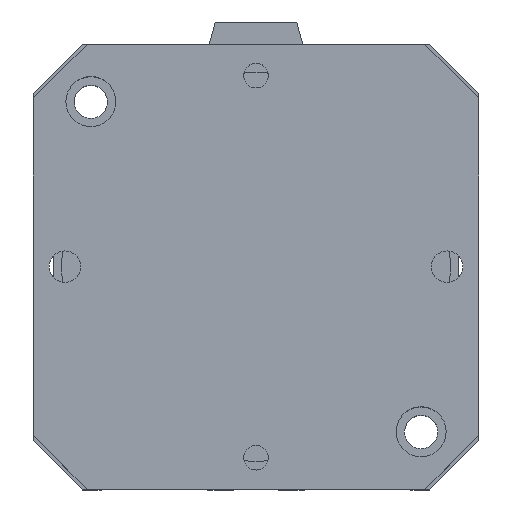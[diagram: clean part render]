
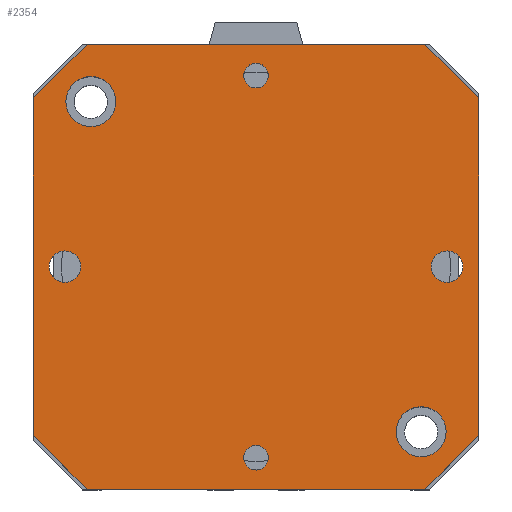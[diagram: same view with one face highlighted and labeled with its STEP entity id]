
A CAD part, top view. The second image highlights one B-rep face of the part: STEP entity #2354.
In plain terms, the highlighted planar face has unit normal (0, 0, 1).
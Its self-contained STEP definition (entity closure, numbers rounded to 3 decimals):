
#221=LINE('',#3869,#429);
#223=LINE('',#3873,#431);
#225=LINE('',#3877,#433);
#227=LINE('',#3881,#435);
#229=LINE('',#3885,#437);
#231=LINE('',#3889,#439);
#233=LINE('',#3893,#441);
#235=LINE('',#3896,#443);
#429=VECTOR('',#3196,91.);
#431=VECTOR('',#3200,20.506);
#433=VECTOR('',#3204,91.);
#435=VECTOR('',#3208,20.506);
#437=VECTOR('',#3212,91.);
#439=VECTOR('',#3216,20.506);
#441=VECTOR('',#3220,91.);
#443=VECTOR('',#3224,20.506);
#537=PLANE('',#2580);
#626=FACE_BOUND('',#956,.T.);
#627=FACE_BOUND('',#957,.T.);
#628=FACE_BOUND('',#958,.T.);
#629=FACE_BOUND('',#959,.T.);
#630=FACE_BOUND('',#960,.T.);
#631=FACE_BOUND('',#961,.T.);
#632=FACE_BOUND('',#962,.T.);
#956=EDGE_LOOP('',(#2134));
#957=EDGE_LOOP('',(#2135));
#958=EDGE_LOOP('',(#2136));
#959=EDGE_LOOP('',(#2137));
#960=EDGE_LOOP('',(#2138));
#961=EDGE_LOOP('',(#2139));
#962=EDGE_LOOP('',(#2140,#2141,#2142,#2143,#2144,#2145,#2146,#2147));
#1035=CIRCLE('',#2536,3.324);
#1037=CIRCLE('',#2539,3.324);
#1042=CIRCLE('',#2547,4.25);
#1046=CIRCLE('',#2554,4.25);
#1055=CIRCLE('',#2569,6.75);
#1056=CIRCLE('',#2571,6.75);
#1235=VERTEX_POINT('',#3787);
#1237=VERTEX_POINT('',#3792);
#1242=VERTEX_POINT('',#3805);
#1246=VERTEX_POINT('',#3816);
#1265=VERTEX_POINT('',#3860);
#1266=VERTEX_POINT('',#3863);
#1267=VERTEX_POINT('',#3866);
#1268=VERTEX_POINT('',#3868);
#1269=VERTEX_POINT('',#3872);
#1270=VERTEX_POINT('',#3876);
#1271=VERTEX_POINT('',#3880);
#1272=VERTEX_POINT('',#3884);
#1273=VERTEX_POINT('',#3888);
#1274=VERTEX_POINT('',#3892);
#1521=EDGE_CURVE('',#1235,#1235,#1035,.T.);
#1523=EDGE_CURVE('',#1237,#1237,#1037,.T.);
#1528=EDGE_CURVE('',#1242,#1242,#1042,.T.);
#1532=EDGE_CURVE('',#1246,#1246,#1046,.T.);
#1551=EDGE_CURVE('',#1265,#1265,#1055,.T.);
#1552=EDGE_CURVE('',#1266,#1266,#1056,.T.);
#1554=EDGE_CURVE('',#1268,#1267,#221,.T.);
#1556=EDGE_CURVE('',#1269,#1268,#223,.T.);
#1558=EDGE_CURVE('',#1270,#1269,#225,.T.);
#1560=EDGE_CURVE('',#1271,#1270,#227,.T.);
#1562=EDGE_CURVE('',#1272,#1271,#229,.T.);
#1564=EDGE_CURVE('',#1273,#1272,#231,.T.);
#1566=EDGE_CURVE('',#1274,#1273,#233,.T.);
#1568=EDGE_CURVE('',#1267,#1274,#235,.T.);
#2134=ORIENTED_EDGE('',*,*,#1521,.T.);
#2135=ORIENTED_EDGE('',*,*,#1523,.T.);
#2136=ORIENTED_EDGE('',*,*,#1528,.T.);
#2137=ORIENTED_EDGE('',*,*,#1532,.T.);
#2138=ORIENTED_EDGE('',*,*,#1551,.T.);
#2139=ORIENTED_EDGE('',*,*,#1552,.T.);
#2140=ORIENTED_EDGE('',*,*,#1568,.T.);
#2141=ORIENTED_EDGE('',*,*,#1566,.T.);
#2142=ORIENTED_EDGE('',*,*,#1564,.T.);
#2143=ORIENTED_EDGE('',*,*,#1562,.T.);
#2144=ORIENTED_EDGE('',*,*,#1560,.T.);
#2145=ORIENTED_EDGE('',*,*,#1558,.T.);
#2146=ORIENTED_EDGE('',*,*,#1556,.T.);
#2147=ORIENTED_EDGE('',*,*,#1554,.T.);
#2354=ADVANCED_FACE('',(#626,#627,#628,#629,#630,#631,#632),#537,.T.);
#2536=AXIS2_PLACEMENT_3D('',#3788,#3111,#3112);
#2539=AXIS2_PLACEMENT_3D('',#3793,#3117,#3118);
#2547=AXIS2_PLACEMENT_3D('',#3806,#3133,#3134);
#2554=AXIS2_PLACEMENT_3D('',#3817,#3147,#3148);
#2569=AXIS2_PLACEMENT_3D('',#3861,#3187,#3188);
#2571=AXIS2_PLACEMENT_3D('',#3864,#3191,#3192);
#2580=AXIS2_PLACEMENT_3D('',#3897,#3225,#3226);
#3111=DIRECTION('center_axis',(0.,0.,-1.));
#3112=DIRECTION('ref_axis',(1.,0.,0.));
#3117=DIRECTION('center_axis',(0.,0.,-1.));
#3118=DIRECTION('ref_axis',(1.,0.,0.));
#3133=DIRECTION('center_axis',(0.,0.,-1.));
#3134=DIRECTION('ref_axis',(1.,0.,0.));
#3147=DIRECTION('center_axis',(0.,0.,-1.));
#3148=DIRECTION('ref_axis',(1.,0.,0.));
#3187=DIRECTION('center_axis',(0.,0.,-1.));
#3188=DIRECTION('ref_axis',(-1.,0.,0.));
#3191=DIRECTION('center_axis',(0.,0.,-1.));
#3192=DIRECTION('ref_axis',(-1.,0.,0.));
#3196=DIRECTION('',(0.,1.,0.));
#3200=DIRECTION('',(0.707,0.707,0.));
#3204=DIRECTION('',(1.,0.,0.));
#3208=DIRECTION('',(0.707,-0.707,0.));
#3212=DIRECTION('',(0.,-1.,0.));
#3216=DIRECTION('',(-0.707,-0.707,0.));
#3220=DIRECTION('',(-1.,0.,0.));
#3224=DIRECTION('',(-0.707,0.707,0.));
#3225=DIRECTION('center_axis',(0.,0.,1.));
#3226=DIRECTION('ref_axis',(1.,0.,0.));
#3787=CARTESIAN_POINT('',(-54.824,0.,80.75));
#3788=CARTESIAN_POINT('Origin',(-51.5,0.,80.75));
#3792=CARTESIAN_POINT('',(48.177,0.,80.75));
#3793=CARTESIAN_POINT('Origin',(51.5,0.,80.75));
#3805=CARTESIAN_POINT('',(-4.25,51.5,80.75));
#3806=CARTESIAN_POINT('Origin',(0.,51.5,80.75));
#3816=CARTESIAN_POINT('',(-4.25,-51.5,80.75));
#3817=CARTESIAN_POINT('Origin',(0.,-51.5,80.75));
#3860=CARTESIAN_POINT('',(-37.75,-44.5,80.75));
#3861=CARTESIAN_POINT('Origin',(-44.5,-44.5,80.75));
#3863=CARTESIAN_POINT('',(51.25,44.5,80.75));
#3864=CARTESIAN_POINT('Origin',(44.5,44.5,80.75));
#3866=CARTESIAN_POINT('',(60.,45.5,80.75));
#3868=CARTESIAN_POINT('',(60.,-45.5,80.75));
#3869=CARTESIAN_POINT('',(60.,45.5,80.75));
#3872=CARTESIAN_POINT('',(45.5,-60.,80.75));
#3873=CARTESIAN_POINT('',(60.,-45.5,80.75));
#3876=CARTESIAN_POINT('',(-45.5,-60.,80.75));
#3877=CARTESIAN_POINT('',(45.5,-60.,80.75));
#3880=CARTESIAN_POINT('',(-60.,-45.5,80.75));
#3881=CARTESIAN_POINT('',(-45.5,-60.,80.75));
#3884=CARTESIAN_POINT('',(-60.,45.5,80.75));
#3885=CARTESIAN_POINT('',(-60.,-45.5,80.75));
#3888=CARTESIAN_POINT('',(-45.5,60.,80.75));
#3889=CARTESIAN_POINT('',(-60.,45.5,80.75));
#3892=CARTESIAN_POINT('',(45.5,60.,80.75));
#3893=CARTESIAN_POINT('',(-45.5,60.,80.75));
#3896=CARTESIAN_POINT('',(45.5,60.,80.75));
#3897=CARTESIAN_POINT('Origin',(0.,0.,80.75));
